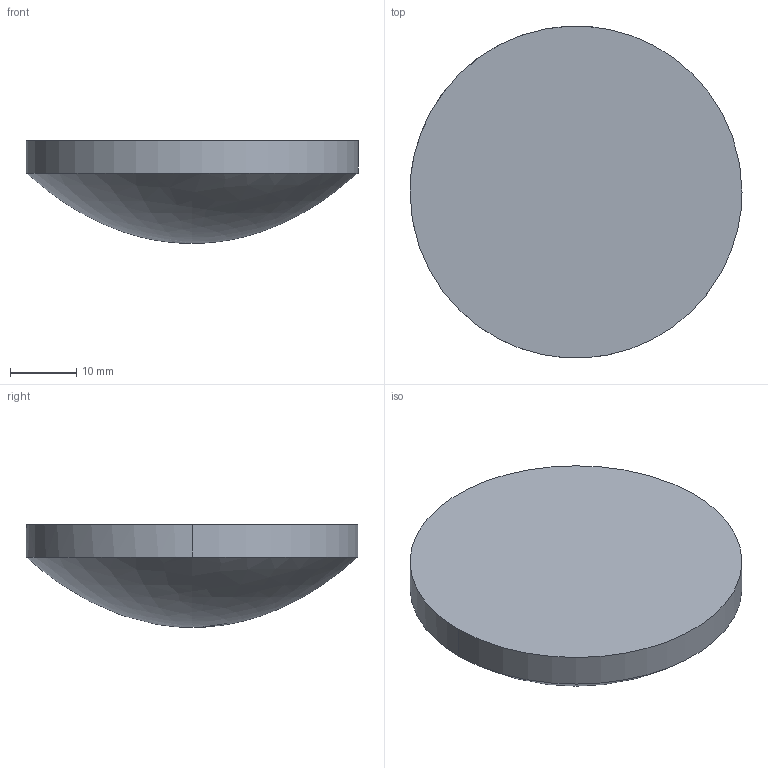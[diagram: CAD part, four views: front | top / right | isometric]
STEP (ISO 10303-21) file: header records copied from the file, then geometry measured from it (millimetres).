
FILE_DESCRIPTION ((), '1');
FILE_NAME ('\\fileserver\Daten\Applikationen\Optikdesign\SPA-Design\aktuelle SPA-Designs\Linsenkataloge - 2016-Juni\Zemax\AHL\AHL50-40.STP', '2016-05-24T14:19:01', ('Unknown'), ('Unknown'), 'HarmonyWare STEP v2.0.1', 'HarmonyWare Translators', '');
FILE_SCHEMA (('CONFIG_CONTROL_DESIGN'));
Length unit declared in the file: millimetre
Products named in the file (1): NONE
Bounding box: 50 x 49.96 x 15.5 mm (x, y, z)
Volume: 20221.5 mm3; surface area: 5027.1 mm2
Topology: 1 solids, 1 shells, 4 faces, 9 edges, 6 vertices
Faces by surface type: cylinder 2, bspline 1, plane 1
Entity records: 325 total; most frequent: CARTESIAN_POINT 174, ORIENTED_EDGE 16, EDGE_CURVE 8, PERSON 8, ORGANIZATION 8, PERSON_AND_ORGANIZATION 8, VERTEX_POINT 6, DIRECTION 6
